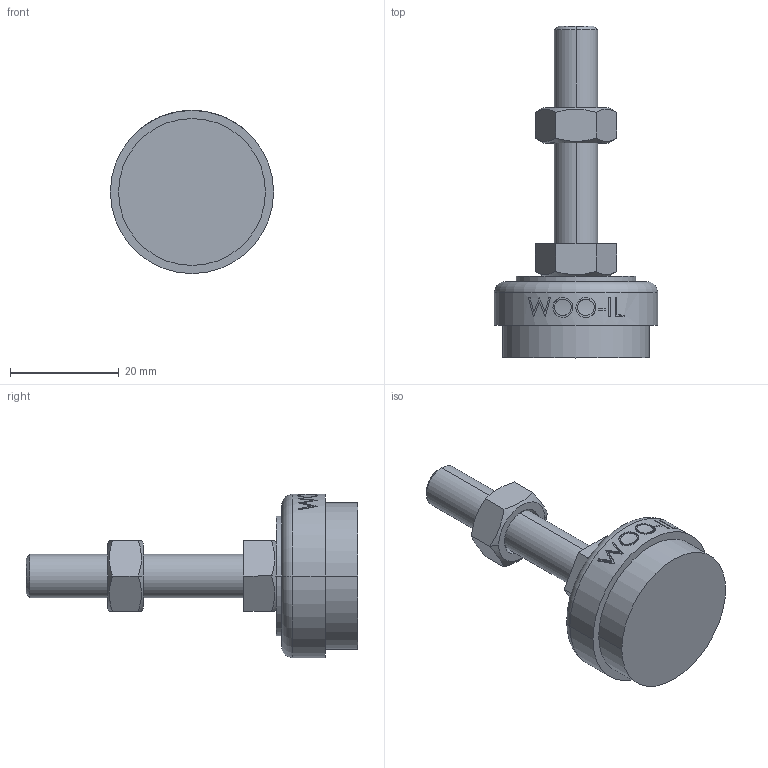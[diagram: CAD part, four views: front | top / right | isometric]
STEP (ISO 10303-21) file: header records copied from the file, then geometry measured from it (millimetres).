
FILE_DESCRIPTION (( 'STEP AP214' ), '1' );
FILE_NAME ('NS30-M8-40.step', '2021-01-11T05:41:45', ( '' ), ( '' ), 'SwSTEP 2.0', 'SolidWorks 2019', '' );
FILE_SCHEMA (( 'AUTOMOTIVE_DESIGN' ));
Length unit declared in the file: millimetre
Products named in the file (2): NS30-M8-40
Bounding box: 30 x 61 x 30 mm (x, y, z)
Volume: 12862.8 mm3; surface area: 4822 mm2
Topology: 3 solids, 3 shells, 96 faces, 223 edges, 144 vertices
Faces by surface type: plane 48, cylinder 18, bspline 16, cone 12, torus 2
Entity records: 4114 total; most frequent: CARTESIAN_POINT 1989, ORIENTED_EDGE 446, DIRECTION 381, EDGE_CURVE 223, VERTEX_POINT 144, AXIS2_PLACEMENT_3D 142, EDGE_LOOP 109, VECTOR 97
